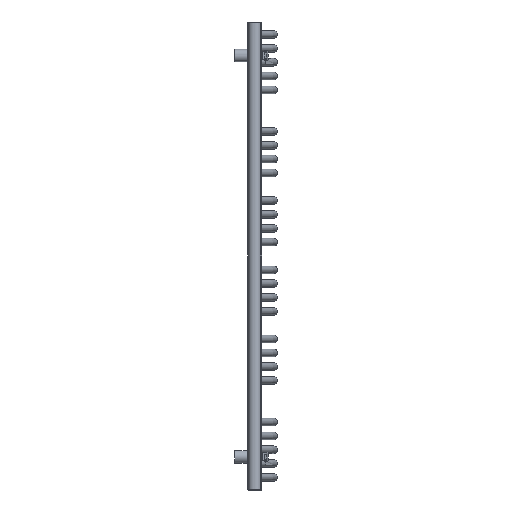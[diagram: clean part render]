
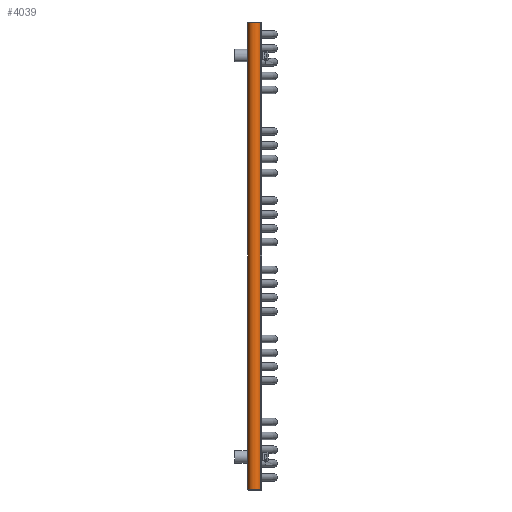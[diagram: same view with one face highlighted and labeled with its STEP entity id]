
A CAD part, left-side view. The second image highlights one B-rep face of the part: STEP entity #4039.
In plain terms, the highlighted cylindrical face has radius 15 mm (diameter 30 mm), a partial arc.
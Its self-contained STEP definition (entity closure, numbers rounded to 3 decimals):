
#3439=CARTESIAN_POINT('',(-280.488,60.49,1.5));
#3440=VERTEX_POINT('',#3439);
#3554=CARTESIAN_POINT('',(-289.512,31.88,1.5));
#3555=VERTEX_POINT('',#3554);
#3563=CARTESIAN_POINT('',(-285.,46.185,1.5));
#3564=DIRECTION('',(0.,0.,-1.0));
#3565=DIRECTION('',(-0.301,-0.954,0.));
#3566=AXIS2_PLACEMENT_3D('',#3563,#3564,#3565);
#3567=CIRCLE('',#3566,15.);
#3568=EDGE_CURVE('',#3555,#3440,#3567,.T.);
#3702=CARTESIAN_POINT('',(-289.512,31.88,1114.5));
#3703=VERTEX_POINT('',#3702);
#3817=CARTESIAN_POINT('',(-280.488,60.49,1114.5));
#3818=VERTEX_POINT('',#3817);
#3826=CARTESIAN_POINT('',(-285.,46.185,1114.5));
#3827=DIRECTION('',(0.,0.,-1.0));
#3828=DIRECTION('',(-0.301,-0.954,0.));
#3829=AXIS2_PLACEMENT_3D('',#3826,#3827,#3828);
#3830=CIRCLE('',#3829,15.);
#3831=EDGE_CURVE('',#3703,#3818,#3830,.T.);
#4012=CARTESIAN_POINT('',(-289.512,31.88,1.5));
#4013=DIRECTION('',(0.0,0.0,1.0));
#4014=VECTOR('',#4013,1113.0);
#4015=LINE('',#4012,#4014);
#4016=EDGE_CURVE('',#3555,#3703,#4015,.T.);
#4023=CARTESIAN_POINT('',(-285.,46.185,1.5));
#4024=DIRECTION('',(0.,0.,1.0));
#4025=DIRECTION('',(-0.301,-0.954,0.));
#4026=AXIS2_PLACEMENT_3D('',#4023,#4024,#4025);
#4027=CYLINDRICAL_SURFACE('',#4026,15.);
#4028=ORIENTED_EDGE('',*,*,#3831,.T.);
#4029=CARTESIAN_POINT('',(-280.488,60.49,1.5));
#4030=DIRECTION('',(0.0,0.0,1.0));
#4031=VECTOR('',#4030,1113.0);
#4032=LINE('',#4029,#4031);
#4033=EDGE_CURVE('',#3440,#3818,#4032,.T.);
#4034=ORIENTED_EDGE('',*,*,#4033,.F.);
#4035=ORIENTED_EDGE('',*,*,#3568,.F.);
#4036=ORIENTED_EDGE('',*,*,#4016,.T.);
#4037=EDGE_LOOP('',(#4028,#4034,#4035,#4036));
#4038=FACE_OUTER_BOUND('',#4037,.T.);
#4039=ADVANCED_FACE('',(#4038),#4027,.T.);
